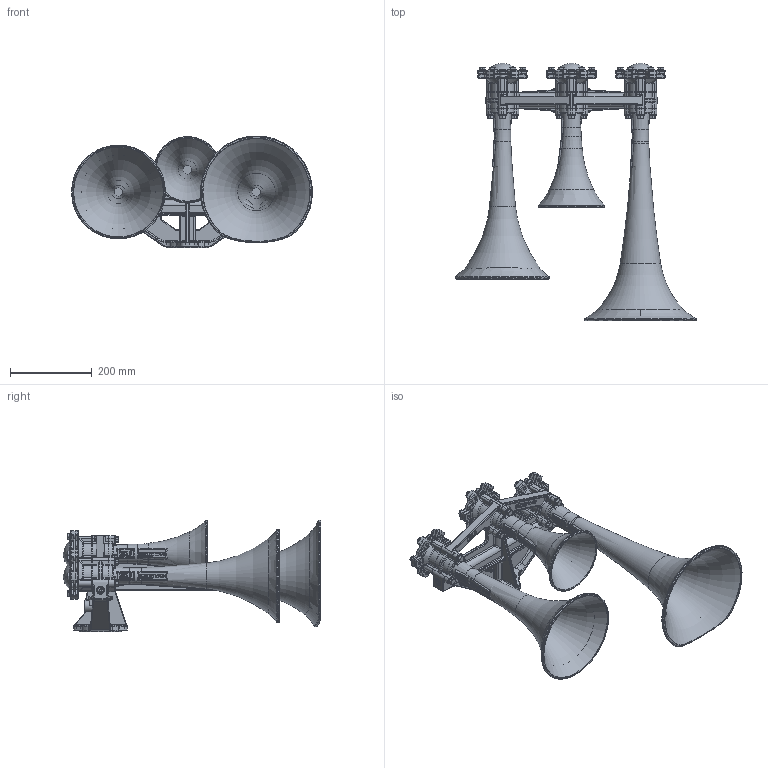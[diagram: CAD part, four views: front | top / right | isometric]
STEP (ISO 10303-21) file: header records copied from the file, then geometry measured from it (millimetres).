
FILE_DESCRIPTION(/* description */ (''),/* implementation_level */ '2;1');
FILE_NAME(/* name */ 'E:/hidden/Engineering Projects/Leslie Controls SuperTyfon/CAD/Assemblies/SuperTyfon S-3L.step',/* time_stamp */ '2022-08-18T19:39:31+10:00',/* author */ (''),/* organization */ (''),/* preprocessor_version */ 'ST-DEVELOPER v19',/* originating_system */ 'Autodesk Translation Framework v11.7.0.108',/* authorisation */ '');
FILE_SCHEMA (('AUTOMOTIVE_DESIGN { 1 0 10303 214 3 1 1 }'));
Length unit declared in the file: inch
Products named in the file (22): SuperTyfon S-3L; 24311 Gasket; #152084; #152085; #152086; #152087; #152088; #152089; #152090; #152091; #152092; 24503 Cap Screw, Horn; 10392 Lock Washer; 24437 Diaphragm; 24438 Diaphragm Ring; 25202 Back Cover, Complete; 26020 Three Horn Base; Plug Weld; 25190 Diaphragm Ring Screw; 13077 Lock Washer; 25200 Cap Screw, Back Cover; 25190 Diaphragm Housing
Assembly tree (93 placements, depth 3):
  SuperTyfon S-3L
    24311 Gasket  x6
    #152084
      #152085
      #152086
    #152087
      #152088
      #152089
    #152090
      #152091
      #152092
    10392 Lock Washer  x9
    24503 Cap Screw, Horn  x9
    25202 Back Cover, Complete  x3
    25190 Diaphragm Ring Screw  x9
    13077 Lock Washer  x18
    25200 Cap Screw, Back Cover  x18
    24438 Diaphragm Ring  x3
    24437 Diaphragm  x3
    26020 Three Horn Base
      Plug Weld  x2
    25190 Diaphragm Housing  x3
Bounding box: 587.29 x 627.79 x 273.05 mm (x, y, z)
Volume: 3360677.9 mm3; surface area: 1352394.4 mm2
Topology: 96 solids, 96 shells, 5367 faces, 13534 edges, 8382 vertices
Faces by surface type: plane 1792, cylinder 1289, bspline 1186, torus 497, cone 431, sphere 172
Full cylindrical faces by diameter (mm): 0.794 x6, 1.191 x27, 1.587 x3, 2.778 x2, 3.175 x28, 3.572 x3, 4.762 x6, 5.556 x9, 6.35 x6, 7.938 x39, 7.987 x3, 8.136 x6, 8.334 x6, 9.525 x36, 10.319 x27, 11.112 x9, 14.287 x10, 18.256 x1, 22.225 x3, 39.688 x3, 44.45 x3, 44.648 x12, 49.212 x3, 53.975 x3, 69.85 x3, 73.025 x3, 73.223 x3, 85.725 x3, 161.925 x1, 228.6 x1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
Entity records: 152043 total; most frequent: CARTESIAN_POINT 65547, ORIENTED_EDGE 19334, DIRECTION 15471, EDGE_CURVE 9667, VERTEX_POINT 6066, AXIS2_PLACEMENT_3D 5747, EDGE_LOOP 4029, LINE 3977
